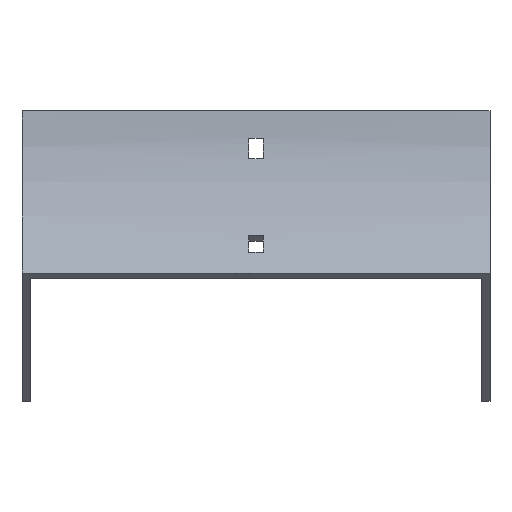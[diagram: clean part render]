
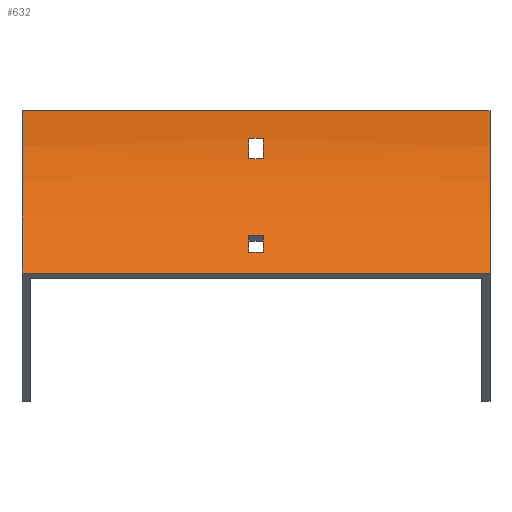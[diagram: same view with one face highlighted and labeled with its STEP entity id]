
A CAD part, front view. The second image highlights one B-rep face of the part: STEP entity #632.
In plain terms, the highlighted cylindrical face has radius 100 mm (diameter 200 mm), a partial arc.
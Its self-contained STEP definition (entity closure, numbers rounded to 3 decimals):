
#11 = VECTOR ( 'NONE', #635, 1000. ) ;
#21 = ORIENTED_EDGE ( 'NONE', *, *, #887, .T. ) ;
#41 = VECTOR ( 'NONE', #1043, 1000. ) ;
#47 = AXIS2_PLACEMENT_3D ( 'NONE', #287, #577, #1116 ) ;
#48 = CARTESIAN_POINT ( 'NONE',  ( 102., -100., 0. ) ) ;
#64 = DIRECTION ( 'NONE',  ( -1., 0., 0. ) ) ;
#73 = AXIS2_PLACEMENT_3D ( 'NONE', #1622, #971, #1383 ) ;
#75 = CIRCLE ( 'NONE', #1046, 100. ) ;
#77 = VERTEX_POINT ( 'NONE', #455 ) ;
#79 = EDGE_CURVE ( 'NONE', #331, #413, #1499, .T. ) ;
#84 = DIRECTION ( 'NONE',  ( -1., 0., 0. ) ) ;
#97 = ORIENTED_EDGE ( 'NONE', *, *, #79, .F. ) ;
#109 = EDGE_CURVE ( 'NONE', #1440, #924, #1011, .T. ) ;
#126 = AXIS2_PLACEMENT_3D ( 'NONE', #1088, #157, #409 ) ;
#157 = DIRECTION ( 'NONE',  ( -1., 0., 0. ) ) ;
#196 = VERTEX_POINT ( 'NONE', #1051 ) ;
#204 = AXIS2_PLACEMENT_3D ( 'NONE', #753, #1023, #1542 ) ;
#214 = CARTESIAN_POINT ( 'NONE',  ( 3.25, -0.723, -12. ) ) ;
#222 = EDGE_CURVE ( 'NONE', #1105, #1595, #1042, .T. ) ;
#250 = ORIENTED_EDGE ( 'NONE', *, *, #1083, .F. ) ;
#270 = CARTESIAN_POINT ( 'NONE',  ( -3.25, -100., 0. ) ) ;
#275 = LINE ( 'NONE', #664, #11 ) ;
#287 = CARTESIAN_POINT ( 'NONE',  ( 3.25, -100., 0. ) ) ;
#297 = ORIENTED_EDGE ( 'NONE', *, *, #1005, .T. ) ;
#329 = EDGE_CURVE ( 'NONE', #196, #1417, #1030, .T. ) ;
#331 = VERTEX_POINT ( 'NONE', #1040 ) ;
#389 = DIRECTION ( 'NONE',  ( -1., 0., 0. ) ) ;
#399 = EDGE_LOOP ( 'NONE', ( #1250, #669, #970, #97 ) ) ;
#409 = DIRECTION ( 'NONE',  ( 0., 0., 1. ) ) ;
#413 = VERTEX_POINT ( 'NONE', #1515 ) ;
#455 = CARTESIAN_POINT ( 'NONE',  ( -3.25, -2.23, -21. ) ) ;
#475 = VECTOR ( 'NONE', #866, 1000. ) ;
#558 = DIRECTION ( 'NONE',  ( -1., 0., 0. ) ) ;
#568 = DIRECTION ( 'NONE',  ( 0., 0., 1. ) ) ;
#577 = DIRECTION ( 'NONE',  ( 1., 0., 0. ) ) ;
#579 = EDGE_CURVE ( 'NONE', #1417, #331, #1319, .T. ) ;
#601 = CARTESIAN_POINT ( 'NONE',  ( 3.25, -2.23, -21. ) ) ;
#632 = ADVANCED_FACE ( 'NONE', ( #1512, #870, #711 ), #1096, .F. ) ;
#635 = DIRECTION ( 'NONE',  ( 1., 0., 0. ) ) ;
#637 = EDGE_CURVE ( 'NONE', #77, #1424, #1126, .T. ) ;
#664 = CARTESIAN_POINT ( 'NONE',  ( 102., -0.723, -12. ) ) ;
#669 = ORIENTED_EDGE ( 'NONE', *, *, #329, .F. ) ;
#711 = FACE_BOUND ( 'NONE', #399, .T. ) ;
#719 = DIRECTION ( 'NONE',  ( 0., 0., -1. ) ) ;
#720 = EDGE_LOOP ( 'NONE', ( #21, #250, #1518, #781 ) ) ;
#735 = CIRCLE ( 'NONE', #126, 100. ) ;
#749 = ORIENTED_EDGE ( 'NONE', *, *, #222, .T. ) ;
#753 = CARTESIAN_POINT ( 'NONE',  ( 3.25, -100., 0. ) ) ;
#781 = ORIENTED_EDGE ( 'NONE', *, *, #109, .T. ) ;
#789 = VECTOR ( 'NONE', #389, 1000. ) ;
#807 = CARTESIAN_POINT ( 'NONE',  ( -102., 0., 0. ) ) ;
#824 = VECTOR ( 'NONE', #558, 1000. ) ;
#841 = VERTEX_POINT ( 'NONE', #1292 ) ;
#846 = CARTESIAN_POINT ( 'NONE',  ( 102., 0., 0. ) ) ;
#856 = DIRECTION ( 'NONE',  ( 0., 0., 1. ) ) ;
#864 = CARTESIAN_POINT ( 'NONE',  ( -3.25, -16.017, -54.285 ) ) ;
#866 = DIRECTION ( 'NONE',  ( 1., 0., 0. ) ) ;
#870 = FACE_BOUND ( 'NONE', #895, .T. ) ;
#882 = CIRCLE ( 'NONE', #47, 100. ) ;
#887 = EDGE_CURVE ( 'NONE', #924, #1055, #735, .T. ) ;
#895 = EDGE_LOOP ( 'NONE', ( #1637, #910, #297, #749 ) ) ;
#910 = ORIENTED_EDGE ( 'NONE', *, *, #637, .T. ) ;
#924 = VERTEX_POINT ( 'NONE', #807 ) ;
#959 = CARTESIAN_POINT ( 'NONE',  ( 102., -2.23, -21. ) ) ;
#970 = ORIENTED_EDGE ( 'NONE', *, *, #1312, .F. ) ;
#971 = DIRECTION ( 'NONE',  ( 1., 0., 0. ) ) ;
#981 = CARTESIAN_POINT ( 'NONE',  ( 102., -100., 0. ) ) ;
#1005 = EDGE_CURVE ( 'NONE', #1424, #1105, #275, .T. ) ;
#1011 = LINE ( 'NONE', #1284, #41 ) ;
#1023 = DIRECTION ( 'NONE',  ( -1., 0., 0. ) ) ;
#1030 = LINE ( 'NONE', #1172, #789 ) ;
#1040 = CARTESIAN_POINT ( 'NONE',  ( -3.25, -21.315, -61.714 ) ) ;
#1042 = CIRCLE ( 'NONE', #204, 100. ) ;
#1043 = DIRECTION ( 'NONE',  ( -1., 0., 0. ) ) ;
#1046 = AXIS2_PLACEMENT_3D ( 'NONE', #981, #1246, #856 ) ;
#1051 = CARTESIAN_POINT ( 'NONE',  ( 3.25, -16.017, -54.285 ) ) ;
#1055 = VERTEX_POINT ( 'NONE', #1608 ) ;
#1077 = LINE ( 'NONE', #959, #824 ) ;
#1083 = EDGE_CURVE ( 'NONE', #841, #1055, #1541, .T. ) ;
#1088 = CARTESIAN_POINT ( 'NONE',  ( -102., -100., 0. ) ) ;
#1096 = CYLINDRICAL_SURFACE ( 'NONE', #1455, 100. ) ;
#1105 = VERTEX_POINT ( 'NONE', #214 ) ;
#1116 = DIRECTION ( 'NONE',  ( 0., 0., 1. ) ) ;
#1126 = CIRCLE ( 'NONE', #73, 100. ) ;
#1172 = CARTESIAN_POINT ( 'NONE',  ( 102., -16.017, -54.285 ) ) ;
#1246 = DIRECTION ( 'NONE',  ( -1., 0., 0. ) ) ;
#1250 = ORIENTED_EDGE ( 'NONE', *, *, #579, .F. ) ;
#1284 = CARTESIAN_POINT ( 'NONE',  ( 102., 0., 0. ) ) ;
#1289 = EDGE_CURVE ( 'NONE', #1595, #77, #1077, .T. ) ;
#1292 = CARTESIAN_POINT ( 'NONE',  ( 102., -29.289, -70.711 ) ) ;
#1312 = EDGE_CURVE ( 'NONE', #413, #196, #882, .T. ) ;
#1319 = CIRCLE ( 'NONE', #1367, 100. ) ;
#1367 = AXIS2_PLACEMENT_3D ( 'NONE', #270, #84, #719 ) ;
#1374 = CARTESIAN_POINT ( 'NONE',  ( 102., -21.315, -61.714 ) ) ;
#1383 = DIRECTION ( 'NONE',  ( 0., 0., 1. ) ) ;
#1384 = CARTESIAN_POINT ( 'NONE',  ( -3.25, -0.723, -12. ) ) ;
#1386 = DIRECTION ( 'NONE',  ( -1., 0., 0. ) ) ;
#1408 = EDGE_CURVE ( 'NONE', #1440, #841, #75, .T. ) ;
#1417 = VERTEX_POINT ( 'NONE', #864 ) ;
#1424 = VERTEX_POINT ( 'NONE', #1384 ) ;
#1440 = VERTEX_POINT ( 'NONE', #846 ) ;
#1455 = AXIS2_PLACEMENT_3D ( 'NONE', #48, #64, #568 ) ;
#1499 = LINE ( 'NONE', #1374, #475 ) ;
#1512 = FACE_OUTER_BOUND ( 'NONE', #720, .T. ) ;
#1515 = CARTESIAN_POINT ( 'NONE',  ( 3.25, -21.315, -61.714 ) ) ;
#1518 = ORIENTED_EDGE ( 'NONE', *, *, #1408, .F. ) ;
#1541 = LINE ( 'NONE', #1642, #1558 ) ;
#1542 = DIRECTION ( 'NONE',  ( 0., 0., -1. ) ) ;
#1558 = VECTOR ( 'NONE', #1386, 1000. ) ;
#1595 = VERTEX_POINT ( 'NONE', #601 ) ;
#1608 = CARTESIAN_POINT ( 'NONE',  ( -102., -29.289, -70.711 ) ) ;
#1622 = CARTESIAN_POINT ( 'NONE',  ( -3.25, -100., 0. ) ) ;
#1637 = ORIENTED_EDGE ( 'NONE', *, *, #1289, .T. ) ;
#1642 = CARTESIAN_POINT ( 'NONE',  ( 102., -29.289, -70.711 ) ) ;
